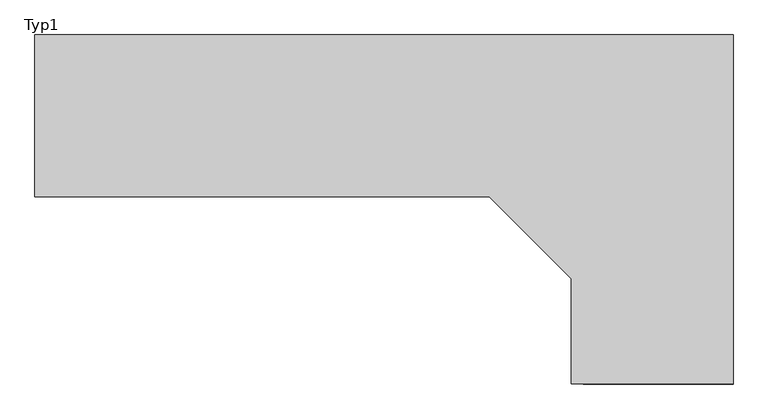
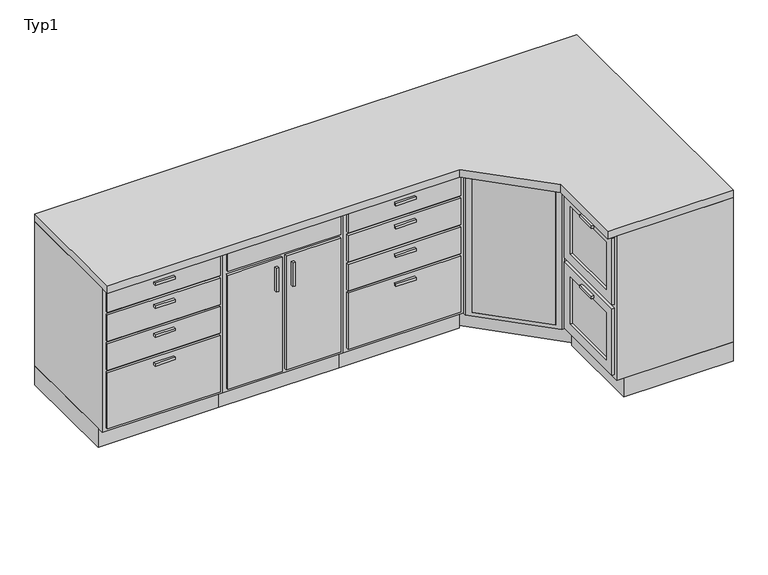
"""IFC4 building model written with IfcOpenShell, lengths in millimetres: furniture geometry, Küchenzeile-05 Kombination : Typ1."""

from ifc_helpers import new_model, si_unit, frame, origin, origin_with_axes, place, context, project, spatial, polyline, outline, extrude, faceted_brep, source, transform, mapped, element, save


def typ1_ea9e3636(model_context):
    return source(origin(), model_context, "Body", "SolidModel", [
        extrude(outline(polyline([(-31.1935944, -990.9255592), (-31.1935944, -1535.9255592), (-631.1935944, -1535.9255592), (-631.1935944, -990.9255592), (-31.1935944, -990.9255592)])), origin_with_axes(), (0.0, 0.0, 1.0), 100.0),
        extrude(outline(polyline([(-280.3935944, -1596.3255592), (-381.9935944, -1596.3255592), (-381.9935944, -1583.6255592), (-280.3935944, -1583.6255592), (-280.3935944, -1596.3255592)])), frame((0.0, 0.0, 802.85), z_axis=(0.0, 0.0, 1.0), x_axis=(1.0, 0.0, 0.0)), (0.0, 0.0, 1.0), 12.7),
        extrude(outline(polyline([(-280.3935944, -1596.3255592), (-381.9935944, -1596.3255592), (-381.9935944, -1583.6255592), (-280.3935944, -1583.6255592), (-280.3935944, -1596.3255592)])), frame((0.0, 0.0, 682.2), z_axis=(0.0, 0.0, 1.0), x_axis=(1.0, 0.0, 0.0)), (0.0, 0.0, 1.0), 12.7),
        extrude(outline(polyline([(-280.3935944, -1596.3255592), (-381.9935944, -1596.3255592), (-381.9935944, -1583.6255592), (-280.3935944, -1583.6255592), (-280.3935944, -1596.3255592)])), frame((0.0, 0.0, 529.8), z_axis=(0.0, 0.0, 1.0), x_axis=(1.0, 0.0, 0.0)), (0.0, 0.0, 1.0), 12.7),
        extrude(outline(polyline([(-280.3935944, -1596.3255592), (-381.9935944, -1596.3255592), (-381.9935944, -1583.6255592), (-280.3935944, -1583.6255592), (-280.3935944, -1596.3255592)])), frame((0.0, 0.0, 377.4), z_axis=(0.0, 0.0, 1.0), x_axis=(1.0, 0.0, 0.0)), (0.0, 0.0, 1.0), 12.7),
        extrude(outline(polyline([(-50.2435944, -1583.6255592), (-612.1435944, -1583.6255592), (-612.1435944, -1570.9255592), (-50.2435944, -1570.9255592), (-50.2435944, -1583.6255592)])), frame((0.0, 0.0, 733.0), z_axis=(0.0, 0.0, 1.0), x_axis=(1.0, 0.0, 0.0)), (0.0, 0.0, 1.0), 107.95),
        extrude(outline(polyline([(-50.2435944, -1583.6255592), (-612.1435944, -1583.6255592), (-612.1435944, -1570.9255592), (-50.2435944, -1570.9255592), (-50.2435944, -1583.6255592)])), frame((0.0, 0.0, 580.6), z_axis=(0.0, 0.0, 1.0), x_axis=(1.0, 0.0, 0.0)), (0.0, 0.0, 1.0), 139.7),
        extrude(outline(polyline([(-50.2435944, -1583.6255592), (-612.1435944, -1583.6255592), (-612.1435944, -1570.9255592), (-50.2435944, -1570.9255592), (-50.2435944, -1583.6255592)])), frame((0.0, 0.0, 428.2), z_axis=(0.0, 0.0, 1.0), x_axis=(1.0, 0.0, 0.0)), (0.0, 0.0, 1.0), 139.7),
        extrude(outline(polyline([(-50.2435944, -1583.6255592), (-612.1435944, -1583.6255592), (-612.1435944, -1570.9255592), (-50.2435944, -1570.9255592), (-50.2435944, -1583.6255592)])), frame((0.0, 0.0, 119.05), z_axis=(0.0, 0.0, 1.0), x_axis=(1.0, 0.0, 0.0)), (0.0, 0.0, 1.0), 296.45),
        extrude(outline(polyline([(-50.2435944, -1009.9755592), (-50.2435944, -1551.8755592), (-612.1435944, -1551.8755592), (-612.1435944, -1009.9755592), (-50.2435944, -1009.9755592)])), frame((0.0, 0.0, 100.0), z_axis=(0.0, 0.0, 1.0), x_axis=(1.0, 0.0, 0.0)), (0.0, 0.0, 1.0), 19.05),
        faceted_brep([(-50.2435944, -1551.8755592, 860.0), (-50.2435944, -1551.8755592, 100.0), (-612.1435944, -1551.8755592, 100.0), (-612.1435944, -1551.8755592, 860.0), (-31.1935944, -1570.9255592, 860.0), (-631.1935944, -1570.9255592, 860.0), (-31.1935944, -1570.9255592, 100.0), (-631.1935944, -1570.9255592, 100.0), (-612.1435944, -1009.9755592, 100.0), (-612.1435944, -1009.9755592, 860.0), (-631.1935944, -990.9255592, 860.0), (-631.1935944, -990.9255592, 100.0), (-50.2435944, -1009.9755592, 100.0), (-50.2435944, -1009.9755592, 860.0), (-31.1935944, -990.9255592, 860.0), (-31.1935944, -990.9255592, 100.0)], [[[0, 1, 2, 3]], [[4, 0, 3, 5]], [[6, 4, 5, 7]], [[1, 6, 7, 2]], [[3, 2, 8, 9]], [[5, 3, 9, 10]], [[7, 5, 10, 11]], [[2, 7, 11, 8]], [[9, 8, 12, 13]], [[10, 9, 13, 14]], [[11, 10, 14, 15]], [[8, 11, 15, 12]], [[13, 12, 1, 0]], [[14, 13, 0, 4]], [[15, 14, 4, 6]], [[12, 15, 6, 1]]]),
        extrude(outline(polyline([(568.8064056, -990.9255592), (568.8064056, -1535.9255592), (-31.1935944, -1535.9255592), (-31.1935944, -990.9255592), (568.8064056, -990.9255592)])), origin_with_axes(), (0.0, 0.0, 1.0), 100.0),
        extrude(outline(polyline([(233.8814056, -1596.3255592), (221.1814056, -1596.3255592), (221.1814056, -1583.6255592), (233.8814056, -1583.6255592), (233.8814056, -1596.3255592)])), frame((0.0, 0.0, 557.469895), z_axis=(0.0, 0.0, 1.0), x_axis=(1.0, 0.0, 0.0)), (0.0, 0.0, 1.0), 124.730105),
        extrude(outline(polyline([(316.4314056, -1596.3255592), (303.7314056, -1596.3255592), (303.7314056, -1583.6255592), (316.4314056, -1583.6255592), (316.4314056, -1596.3255592)])), frame((0.0, 0.0, 557.469895), z_axis=(0.0, 0.0, 1.0), x_axis=(1.0, 0.0, 0.0)), (0.0, 0.0, 1.0), 124.730105),
        extrude(outline(polyline([(259.2814056, -1583.6255592), (-12.1435944, -1583.6255592), (-12.1435944, -1570.9255592), (259.2814056, -1570.9255592), (259.2814056, -1583.6255592)])), frame((0.0, 0.0, 119.05), z_axis=(0.0, 0.0, 1.0), x_axis=(1.0, 0.0, 0.0)), (0.0, 0.0, 1.0), 601.25),
        extrude(outline(polyline([(549.7564056, -1583.6255592), (278.3314056, -1583.6255592), (278.3314056, -1570.9255592), (549.7564056, -1570.9255592), (549.7564056, -1583.6255592)])), frame((0.0, 0.0, 119.05), z_axis=(0.0, 0.0, 1.0), x_axis=(1.0, 0.0, 0.0)), (0.0, 0.0, 1.0), 601.25),
        extrude(outline(polyline([(549.7564056, -1583.6255592), (-12.1435944, -1583.6255592), (-12.1435944, -1570.9255592), (549.7564056, -1570.9255592), (549.7564056, -1583.6255592)])), frame((0.0, 0.0, 739.35), z_axis=(0.0, 0.0, 1.0), x_axis=(1.0, 0.0, 0.0)), (0.0, 0.0, 1.0), 101.6),
        extrude(outline(polyline([(549.7564056, -1009.9755592), (549.7564056, -1551.8755592), (-12.1435944, -1551.8755592), (-12.1435944, -1009.9755592), (549.7564056, -1009.9755592)])), frame((0.0, 0.0, 100.0), z_axis=(0.0, 0.0, 1.0), x_axis=(1.0, 0.0, 0.0)), (0.0, 0.0, 1.0), 19.05),
        faceted_brep([(549.7564056, -1551.8755592, 860.0), (549.7564056, -1551.8755592, 100.0), (-12.1435944, -1551.8755592, 100.0), (-12.1435944, -1551.8755592, 860.0), (568.8064056, -1570.9255592, 860.0), (-31.1935944, -1570.9255592, 860.0), (568.8064056, -1570.9255592, 100.0), (-31.1935944, -1570.9255592, 100.0), (-12.1435944, -1009.9755592, 100.0), (-12.1435944, -1009.9755592, 860.0), (-31.1935944, -990.9255592, 860.0), (-31.1935944, -990.9255592, 100.0), (549.7564056, -1009.9755592, 100.0), (549.7564056, -1009.9755592, 860.0), (568.8064056, -990.9255592, 860.0), (568.8064056, -990.9255592, 100.0)], [[[0, 1, 2, 3]], [[4, 0, 3, 5]], [[6, 4, 5, 7]], [[1, 6, 7, 2]], [[3, 2, 8, 9]], [[5, 3, 9, 10]], [[7, 5, 10, 11]], [[2, 7, 11, 8]], [[9, 8, 12, 13]], [[10, 9, 13, 14]], [[11, 10, 14, 15]], [[8, 11, 15, 12]], [[13, 12, 1, 0]], [[14, 13, 0, 4]], [[15, 14, 4, 6]], [[12, 15, 6, 1]]]),
        extrude(outline(polyline([(1168.8064056, -990.9255592), (1168.8064056, -1535.9255592), (568.8064056, -1535.9255592), (568.8064056, -990.9255592), (1168.8064056, -990.9255592)])), origin_with_axes(), (0.0, 0.0, 1.0), 100.0),
        extrude(outline(polyline([(919.6064056, -1596.3255592), (818.0064056, -1596.3255592), (818.0064056, -1583.6255592), (919.6064056, -1583.6255592), (919.6064056, -1596.3255592)])), frame((0.0, 0.0, 802.85), z_axis=(0.0, 0.0, 1.0), x_axis=(1.0, 0.0, 0.0)), (0.0, 0.0, 1.0), 12.7),
        extrude(outline(polyline([(919.6064056, -1596.3255592), (818.0064056, -1596.3255592), (818.0064056, -1583.6255592), (919.6064056, -1583.6255592), (919.6064056, -1596.3255592)])), frame((0.0, 0.0, 682.2), z_axis=(0.0, 0.0, 1.0), x_axis=(1.0, 0.0, 0.0)), (0.0, 0.0, 1.0), 12.7),
        extrude(outline(polyline([(919.6064056, -1596.3255592), (818.0064056, -1596.3255592), (818.0064056, -1583.6255592), (919.6064056, -1583.6255592), (919.6064056, -1596.3255592)])), frame((0.0, 0.0, 529.8), z_axis=(0.0, 0.0, 1.0), x_axis=(1.0, 0.0, 0.0)), (0.0, 0.0, 1.0), 12.7),
        extrude(outline(polyline([(919.6064056, -1596.3255592), (818.0064056, -1596.3255592), (818.0064056, -1583.6255592), (919.6064056, -1583.6255592), (919.6064056, -1596.3255592)])), frame((0.0, 0.0, 377.4), z_axis=(0.0, 0.0, 1.0), x_axis=(1.0, 0.0, 0.0)), (0.0, 0.0, 1.0), 12.7),
        extrude(outline(polyline([(1149.7564056, -1583.6255592), (587.8564056, -1583.6255592), (587.8564056, -1570.9255592), (1149.7564056, -1570.9255592), (1149.7564056, -1583.6255592)])), frame((0.0, 0.0, 733.0), z_axis=(0.0, 0.0, 1.0), x_axis=(1.0, 0.0, 0.0)), (0.0, 0.0, 1.0), 107.95),
        extrude(outline(polyline([(1149.7564056, -1583.6255592), (587.8564056, -1583.6255592), (587.8564056, -1570.9255592), (1149.7564056, -1570.9255592), (1149.7564056, -1583.6255592)])), frame((0.0, 0.0, 580.6), z_axis=(0.0, 0.0, 1.0), x_axis=(1.0, 0.0, 0.0)), (0.0, 0.0, 1.0), 139.7),
        extrude(outline(polyline([(1149.7564056, -1583.6255592), (587.8564056, -1583.6255592), (587.8564056, -1570.9255592), (1149.7564056, -1570.9255592), (1149.7564056, -1583.6255592)])), frame((0.0, 0.0, 428.2), z_axis=(0.0, 0.0, 1.0), x_axis=(1.0, 0.0, 0.0)), (0.0, 0.0, 1.0), 139.7),
        extrude(outline(polyline([(1149.7564056, -1583.6255592), (587.8564056, -1583.6255592), (587.8564056, -1570.9255592), (1149.7564056, -1570.9255592), (1149.7564056, -1583.6255592)])), frame((0.0, 0.0, 119.05), z_axis=(0.0, 0.0, 1.0), x_axis=(1.0, 0.0, 0.0)), (0.0, 0.0, 1.0), 296.45),
        extrude(outline(polyline([(1149.7564056, -1009.9755592), (1149.7564056, -1551.8755592), (587.8564056, -1551.8755592), (587.8564056, -1009.9755592), (1149.7564056, -1009.9755592)])), frame((0.0, 0.0, 100.0), z_axis=(0.0, 0.0, 1.0), x_axis=(1.0, 0.0, 0.0)), (0.0, 0.0, 1.0), 19.05),
        faceted_brep([(1149.7564056, -1551.8755592, 860.0), (1149.7564056, -1551.8755592, 100.0), (587.8564056, -1551.8755592, 100.0), (587.8564056, -1551.8755592, 860.0), (1168.8064056, -1570.9255592, 860.0), (568.8064056, -1570.9255592, 860.0), (1168.8064056, -1570.9255592, 100.0), (568.8064056, -1570.9255592, 100.0), (587.8564056, -1009.9755592, 100.0), (587.8564056, -1009.9755592, 860.0), (568.8064056, -990.9255592, 860.0), (568.8064056, -990.9255592, 100.0), (1149.7564056, -1009.9755592, 100.0), (1149.7564056, -1009.9755592, 860.0), (1168.8064056, -990.9255592, 860.0), (1168.8064056, -990.9255592, 100.0)], [[[0, 1, 2, 3]], [[4, 0, 3, 5]], [[6, 4, 5, 7]], [[1, 6, 7, 2]], [[3, 2, 8, 9]], [[5, 3, 9, 10]], [[7, 5, 10, 11]], [[2, 7, 11, 8]], [[9, 8, 12, 13]], [[10, 9, 13, 14]], [[11, 10, 14, 15]], [[8, 11, 15, 12]], [[13, 12, 1, 0]], [[14, 13, 0, 4]], [[15, 14, 4, 6]], [[12, 15, 6, 1]]]),
        extrude(outline(polyline([(1463.4064056, -2166.7255592), (1463.4064056, -2065.1255592), (1476.1064056, -2065.1255592), (1476.1064056, -2166.7255592), (1463.4064056, -2166.7255592)])), frame((0.0, 0.0, 802.85), z_axis=(0.0, 0.0, 1.0), x_axis=(1.0, 0.0, 0.0)), (0.0, 0.0, 1.0), 12.7),
        extrude(outline(polyline([(1463.4064056, -2166.7255592), (1463.4064056, -2065.1255592), (1476.1064056, -2065.1255592), (1476.1064056, -2166.7255592), (1463.4064056, -2166.7255592)])), frame((0.0, 0.0, 432.375), z_axis=(0.0, 0.0, 1.0), x_axis=(1.0, 0.0, 0.0)), (0.0, 0.0, 1.0), 12.7),
        extrude(outline(polyline([(-2321.8755592, 840.95), (-1909.9755592, 840.95), (-1909.9755592, 489.525), (-2321.8755592, 489.525), (-2321.8755592, 840.95)]), holes=[polyline([(-2271.0755592, 790.15), (-2271.0755592, 540.325), (-1960.7755592, 540.325), (-1960.7755592, 790.15), (-2271.0755592, 790.15)])]), frame((1476.1064056, 0.0, 0.0), z_axis=(1.0, 0.0, 0.0), x_axis=(0.0, 1.0, 0.0)), (0.0, 0.0, 1.0), 12.7),
        extrude(outline(polyline([(-2321.8755592, 470.475), (-1909.9755592, 470.475), (-1909.9755592, 119.05), (-2321.8755592, 119.05), (-2321.8755592, 470.475)]), holes=[polyline([(-2271.0755592, 419.675), (-2271.0755592, 169.85), (-1960.7755592, 169.85), (-1960.7755592, 419.675), (-2271.0755592, 419.675)])]), frame((1476.1064056, 0.0, 0.0), z_axis=(1.0, 0.0, 0.0), x_axis=(0.0, 1.0, 0.0)), (0.0, 0.0, 1.0), 12.7),
        extrude(outline(polyline([(1488.8064056, -2271.0755592), (1488.8064056, -1960.7755592), (1507.8564056, -1960.7755592), (1507.8564056, -2271.0755592), (1488.8064056, -2271.0755592)])), frame((0.0, 0.0, 540.325), z_axis=(0.0, 0.0, 1.0), x_axis=(1.0, 0.0, 0.0)), (0.0, 0.0, 1.0), 249.825),
        extrude(outline(polyline([(1488.8064056, -2271.0755592), (1488.8064056, -1960.7755592), (1507.8564056, -1960.7755592), (1507.8564056, -2271.0755592), (1488.8064056, -2271.0755592)])), frame((0.0, 0.0, 169.85), z_axis=(0.0, 0.0, 1.0), x_axis=(1.0, 0.0, 0.0)), (0.0, 0.0, 1.0), 249.825),
        extrude(outline(polyline([(2049.7564056, -2321.8755592), (1507.8564056, -2321.8755592), (1507.8564056, -1909.9755592), (2049.7564056, -1909.9755592), (2049.7564056, -2321.8755592)])), frame((0.0, 0.0, 100.0), z_axis=(0.0, 0.0, 1.0), x_axis=(1.0, 0.0, 0.0)), (0.0, 0.0, 1.0), 19.05),
        faceted_brep([(1507.8564056, -2321.8755592, 860.0), (1507.8564056, -2321.8755592, 100.0), (1507.8564056, -1909.9755592, 100.0), (1507.8564056, -1909.9755592, 860.0), (1507.8564056, -2271.0755592, 540.325), (1507.8564056, -2271.0755592, 790.15), (1507.8564056, -1960.7755592, 790.15), (1507.8564056, -1960.7755592, 540.325), (1507.8564056, -2271.0755592, 169.85), (1507.8564056, -2271.0755592, 419.675), (1507.8564056, -1960.7755592, 419.675), (1507.8564056, -1960.7755592, 169.85), (1488.8064056, -1890.9255592, 860.0), (1488.8064056, -2340.9255592, 860.0), (1488.8064056, -1890.9255592, 100.0), (1488.8064056, -2340.9255592, 100.0), (1488.8064056, -2271.0755592, 790.15), (1488.8064056, -2271.0755592, 540.325), (1488.8064056, -1960.7755592, 540.325), (1488.8064056, -1960.7755592, 790.15), (1488.8064056, -2271.0755592, 419.675), (1488.8064056, -2271.0755592, 169.85), (1488.8064056, -1960.7755592, 169.85), (1488.8064056, -1960.7755592, 419.675), (2049.7564056, -1909.9755592, 100.0), (2049.7564056, -1909.9755592, 860.0), (2068.8064056, -1890.9255592, 860.0), (2068.8064056, -1890.9255592, 100.0), (2049.7564056, -2321.8755592, 100.0), (2049.7564056, -2321.8755592, 860.0), (2068.8064056, -2340.9255592, 860.0), (2068.8064056, -2340.9255592, 100.0)], [[[0, 1, 2, 3], [4, 5, 6, 7], [8, 9, 10, 11]], [[0, 3, 12, 13]], [[13, 12, 14, 15], [16, 17, 18, 19], [20, 21, 22, 23]], [[2, 1, 15, 14]], [[3, 2, 24, 25]], [[12, 3, 25, 26]], [[14, 12, 26, 27]], [[2, 14, 27, 24]], [[25, 24, 28, 29]], [[26, 25, 29, 30]], [[27, 26, 30, 31]], [[24, 27, 31, 28]], [[1, 0, 29, 28]], [[0, 13, 30, 29]], [[13, 15, 31, 30]], [[15, 1, 28, 31]], [[4, 17, 16, 5]], [[17, 4, 7, 18]], [[18, 7, 6, 19]], [[5, 16, 19, 6]], [[8, 21, 20, 9]], [[21, 8, 11, 22]], [[22, 11, 10, 23]], [[9, 20, 23, 10]]]),
        extrude(outline(polyline([(2068.8064056, -2340.9255592), (1523.8064056, -2340.9255592), (1523.8064056, -1890.9255592), (2068.8064056, -1890.9255592), (2068.8064056, -2340.9255592)])), origin_with_axes(), (0.0, 0.0, 1.0), 100.0),
        extrude(outline(polyline([(1455.9075101, -1873.2641886), (1190.7090625, -1608.6280102), (1204.1298263, -1595.1787314), (1469.3282739, -1859.8149099), (1455.9075101, -1873.2641886)])), frame((0.0, 0.0, 119.05), z_axis=(0.0, 0.0, 1.0), x_axis=(1.0, 0.0, 0.0)), (0.0, 0.0, 1.0), 721.9),
        extrude(outline(polyline([(2049.7564056, -1009.9755592), (2049.7564056, -1871.8755592), (1481.4145484, -1871.8755592), (1187.8564056, -1578.9398134), (1187.8564056, -1009.9755592), (2049.7564056, -1009.9755592)])), frame((0.0, 0.0, 100.0), z_axis=(0.0, 0.0, 1.0), x_axis=(1.0, 0.0, 0.0)), (0.0, 0.0, 1.0), 19.05),
        extrude(outline(polyline([(2068.8064056, -990.9255592), (2068.8064056, -1890.9255592), (1549.8064056, -1890.9255592), (1168.8064056, -1510.5479397), (1168.8064056, -990.9255592), (2068.8064056, -990.9255592)])), origin_with_axes(), (0.0, 0.0, 1.0), 100.0),
        faceted_brep([(2068.8064056, -990.9255592, 860.0), (1168.8064056, -990.9255592, 860.0), (1168.8064056, -1586.7717909, 860.0), (1473.6064056, -1890.9255592, 860.0), (2068.8064056, -1890.9255592, 860.0), (1187.8564056, -1578.8691776, 860.0), (1187.8564056, -1009.9755592, 860.0), (2049.7564056, -1009.9755592, 860.0), (2049.7564056, -1871.8755592, 860.0), (1481.4853342, -1871.8755592, 860.0), (2068.8064056, -990.9255592, 100.0), (2068.8064056, -1890.9255592, 100.0), (1473.6064056, -1890.9255592, 100.0), (1168.8064056, -1586.7717909, 100.0), (1168.8064056, -990.9255592, 100.0), (1481.4853342, -1871.8755592, 100.0), (2049.7564056, -1871.8755592, 100.0), (2049.7564056, -1009.9755592, 100.0), (1187.8564056, -1009.9755592, 100.0), (1187.8564056, -1578.8691776, 100.0), (1455.9075101, -1873.2641886, 840.95), (1455.9075101, -1873.2641886, 119.05), (1190.7090625, -1608.6280102, 119.05), (1190.7090625, -1608.6280102, 840.95), (1469.3635917, -1859.779517, 119.05), (1469.3635917, -1859.779517, 840.95), (1204.1651441, -1595.1433386, 840.95), (1204.1651441, -1595.1433386, 119.05)], [[[0, 1, 2, 3, 4], [5, 6, 7, 8, 9]], [[10, 11, 12, 13, 14], [15, 16, 17, 18, 19]], [[1, 0, 10, 14]], [[2, 1, 14, 13]], [[6, 5, 19, 18]], [[7, 6, 18, 17]], [[8, 7, 17, 16]], [[9, 8, 16, 15]], [[4, 3, 12, 11]], [[0, 4, 11, 10]], [[3, 2, 13, 12], [20, 21, 22, 23]], [[5, 9, 15, 19], [24, 25, 26, 27]], [[24, 21, 20, 25]], [[21, 24, 27, 22]], [[22, 27, 26, 23]], [[25, 20, 23, 26]]]),
        extrude(outline(polyline([(1125.6053025, -1615.9255592), (-631.1935944, -1615.9255592), (-631.1935944, -990.9255592), (2068.8064056, -990.9255592), (2068.8064056, -2340.9255592), (1443.8064056, -2340.9255592), (1443.8064056, -1934.1266623), (1125.6053025, -1615.9255592)])), frame((0.0, 0.0, 860.0), z_axis=(0.0, 0.0, 1.0), x_axis=(1.0, 0.0, 0.0)), (0.0, 0.0, 1.0), 40.0),
    ])


if __name__ == "__main__":
    model = new_model("IFC4")
    model_context = context("Model", 3, world=origin())
    ifc_project = project(units=[si_unit("LENGTHUNIT", "METRE", prefix="MILLI")], contexts=[model_context])
    site = spatial("IfcSite", under=ifc_project)
    building = spatial("IfcBuilding", under=site)
    placement = place(None, origin())
    typ1_shape = typ1_ea9e3636(model_context)
    element("IfcFurniture", 1, ObjectType="Küchenzeile-05 Kombination : Typ1", at=placement, inside=building, context=model_context, shape_type="MappedRepresentation", body=[
        mapped(typ1_shape, transform((0.0, 0.0, 0.0), x_axis=(1.0, 0.0, 0.0), y_axis=(0.0, 1.0, 0.0), z_axis=(0.0, 0.0, 1.0))),
    ])
    save(model, "model.ifc")
